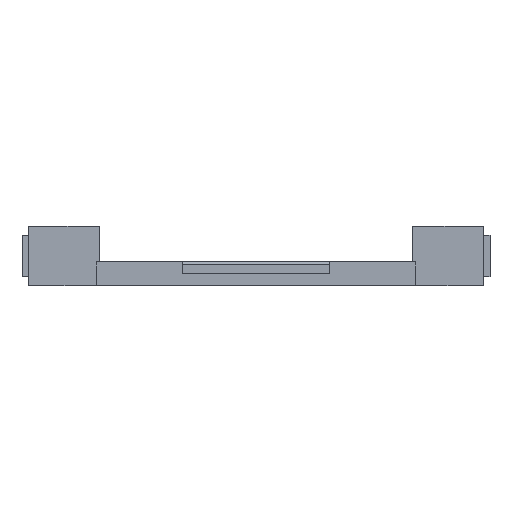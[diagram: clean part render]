
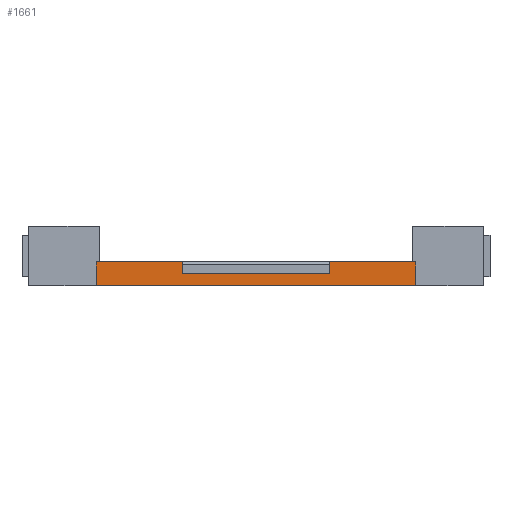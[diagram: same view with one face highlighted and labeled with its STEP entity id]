
A CAD part, front view. The second image highlights one B-rep face of the part: STEP entity #1661.
In plain terms, the highlighted planar face has unit normal (0, -1, 0).
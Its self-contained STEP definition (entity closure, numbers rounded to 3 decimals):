
#22 = VERTEX_POINT('',#23);
#23 = CARTESIAN_POINT('',(25.2,0.,8.));
#32 = PLANE('',#33);
#33 = AXIS2_PLACEMENT_3D('',#34,#35,#36);
#34 = CARTESIAN_POINT('',(25.2,0.,0.));
#35 = DIRECTION('',(1.,0.,0.));
#36 = DIRECTION('',(0.,0.,1.));
#44 = PLANE('',#45);
#45 = AXIS2_PLACEMENT_3D('',#46,#47,#48);
#46 = CARTESIAN_POINT('',(25.2,0.,8.));
#47 = DIRECTION('',(0.,0.,1.));
#48 = DIRECTION('',(1.,0.,0.));
#56 = EDGE_CURVE('',#57,#22,#59,.T.);
#57 = VERTEX_POINT('',#58);
#58 = CARTESIAN_POINT('',(25.2,0.,0.));
#59 = SURFACE_CURVE('',#60,(#64,#71),.PCURVE_S1.);
#60 = LINE('',#61,#62);
#61 = CARTESIAN_POINT('',(25.2,0.,0.));
#62 = VECTOR('',#63,1.);
#63 = DIRECTION('',(0.,0.,1.));
#64 = PCURVE('',#32,#65);
#65 = DEFINITIONAL_REPRESENTATION('',(#66),#70);
#66 = LINE('',#67,#68);
#67 = CARTESIAN_POINT('',(0.,0.));
#68 = VECTOR('',#69,1.);
#69 = DIRECTION('',(1.,0.));
#70 = ( GEOMETRIC_REPRESENTATION_CONTEXT(2) 
PARAMETRIC_REPRESENTATION_CONTEXT() REPRESENTATION_CONTEXT('2D SPACE',''
  ) );
#71 = PCURVE('',#72,#77);
#72 = PLANE('',#73);
#73 = AXIS2_PLACEMENT_3D('',#74,#75,#76);
#74 = CARTESIAN_POINT('',(25.2,0.,0.));
#75 = DIRECTION('',(0.,1.,0.));
#76 = DIRECTION('',(0.,0.,1.));
#77 = DEFINITIONAL_REPRESENTATION('',(#78),#82);
#78 = LINE('',#79,#80);
#79 = CARTESIAN_POINT('',(0.,0.));
#80 = VECTOR('',#81,1.);
#81 = DIRECTION('',(1.,0.));
#82 = ( GEOMETRIC_REPRESENTATION_CONTEXT(2) 
PARAMETRIC_REPRESENTATION_CONTEXT() REPRESENTATION_CONTEXT('2D SPACE',''
  ) );
#100 = PLANE('',#101);
#101 = AXIS2_PLACEMENT_3D('',#102,#103,#104);
#102 = CARTESIAN_POINT('',(25.2,0.,0.));
#103 = DIRECTION('',(0.,0.,1.));
#104 = DIRECTION('',(1.,0.,0.));
#141 = EDGE_CURVE('',#142,#144,#146,.T.);
#142 = VERTEX_POINT('',#143);
#143 = CARTESIAN_POINT('',(104.2,0.,8.));
#144 = VERTEX_POINT('',#145);
#145 = CARTESIAN_POINT('',(133.2,0.,8.));
#146 = SURFACE_CURVE('',#147,(#151,#158),.PCURVE_S1.);
#147 = LINE('',#148,#149);
#148 = CARTESIAN_POINT('',(25.2,0.,8.));
#149 = VECTOR('',#150,1.);
#150 = DIRECTION('',(1.,0.,0.));
#151 = PCURVE('',#44,#152);
#152 = DEFINITIONAL_REPRESENTATION('',(#153),#157);
#153 = LINE('',#154,#155);
#154 = CARTESIAN_POINT('',(0.,0.));
#155 = VECTOR('',#156,1.);
#156 = DIRECTION('',(1.,0.));
#157 = ( GEOMETRIC_REPRESENTATION_CONTEXT(2) 
PARAMETRIC_REPRESENTATION_CONTEXT() REPRESENTATION_CONTEXT('2D SPACE',''
  ) );
#158 = PCURVE('',#72,#159);
#159 = DEFINITIONAL_REPRESENTATION('',(#160),#164);
#160 = LINE('',#161,#162);
#161 = CARTESIAN_POINT('',(8.,0.));
#162 = VECTOR('',#163,1.);
#163 = DIRECTION('',(0.,1.));
#164 = ( GEOMETRIC_REPRESENTATION_CONTEXT(2) 
PARAMETRIC_REPRESENTATION_CONTEXT() REPRESENTATION_CONTEXT('2D SPACE',''
  ) );
#182 = PLANE('',#183);
#183 = AXIS2_PLACEMENT_3D('',#184,#185,#186);
#184 = CARTESIAN_POINT('',(133.2,0.,0.));
#185 = DIRECTION('',(1.,0.,0.));
#186 = DIRECTION('',(0.,0.,1.));
#644 = EDGE_CURVE('',#22,#645,#647,.T.);
#645 = VERTEX_POINT('',#646);
#646 = CARTESIAN_POINT('',(54.2,0.,8.));
#647 = SURFACE_CURVE('',#648,(#652,#659),.PCURVE_S1.);
#648 = LINE('',#649,#650);
#649 = CARTESIAN_POINT('',(25.2,0.,8.));
#650 = VECTOR('',#651,1.);
#651 = DIRECTION('',(1.,0.,0.));
#652 = PCURVE('',#44,#653);
#653 = DEFINITIONAL_REPRESENTATION('',(#654),#658);
#654 = LINE('',#655,#656);
#655 = CARTESIAN_POINT('',(0.,0.));
#656 = VECTOR('',#657,1.);
#657 = DIRECTION('',(1.,0.));
#658 = ( GEOMETRIC_REPRESENTATION_CONTEXT(2) 
PARAMETRIC_REPRESENTATION_CONTEXT() REPRESENTATION_CONTEXT('2D SPACE',''
  ) );
#659 = PCURVE('',#72,#660);
#660 = DEFINITIONAL_REPRESENTATION('',(#661),#665);
#661 = LINE('',#662,#663);
#662 = CARTESIAN_POINT('',(8.,0.));
#663 = VECTOR('',#664,1.);
#664 = DIRECTION('',(0.,1.));
#665 = ( GEOMETRIC_REPRESENTATION_CONTEXT(2) 
PARAMETRIC_REPRESENTATION_CONTEXT() REPRESENTATION_CONTEXT('2D SPACE',''
  ) );
#683 = PLANE('',#684);
#684 = AXIS2_PLACEMENT_3D('',#685,#686,#687);
#685 = CARTESIAN_POINT('',(54.2,-10.,4.));
#686 = DIRECTION('',(1.,0.,0.));
#687 = DIRECTION('',(0.,0.,1.));
#965 = PLANE('',#966);
#966 = AXIS2_PLACEMENT_3D('',#967,#968,#969);
#967 = CARTESIAN_POINT('',(104.2,-10.,4.));
#968 = DIRECTION('',(1.,0.,0.));
#969 = DIRECTION('',(0.,0.,1.));
#1086 = EDGE_CURVE('',#57,#1087,#1089,.T.);
#1087 = VERTEX_POINT('',#1088);
#1088 = CARTESIAN_POINT('',(133.2,0.,0.));
#1089 = SURFACE_CURVE('',#1090,(#1094,#1101),.PCURVE_S1.);
#1090 = LINE('',#1091,#1092);
#1091 = CARTESIAN_POINT('',(25.2,0.,0.));
#1092 = VECTOR('',#1093,1.);
#1093 = DIRECTION('',(1.,0.,0.));
#1094 = PCURVE('',#100,#1095);
#1095 = DEFINITIONAL_REPRESENTATION('',(#1096),#1100);
#1096 = LINE('',#1097,#1098);
#1097 = CARTESIAN_POINT('',(0.,0.));
#1098 = VECTOR('',#1099,1.);
#1099 = DIRECTION('',(1.,0.));
#1100 = ( GEOMETRIC_REPRESENTATION_CONTEXT(2) 
PARAMETRIC_REPRESENTATION_CONTEXT() REPRESENTATION_CONTEXT('2D SPACE',''
  ) );
#1101 = PCURVE('',#72,#1102);
#1102 = DEFINITIONAL_REPRESENTATION('',(#1103),#1107);
#1103 = LINE('',#1104,#1105);
#1104 = CARTESIAN_POINT('',(0.,0.));
#1105 = VECTOR('',#1106,1.);
#1106 = DIRECTION('',(0.,1.));
#1107 = ( GEOMETRIC_REPRESENTATION_CONTEXT(2) 
PARAMETRIC_REPRESENTATION_CONTEXT() REPRESENTATION_CONTEXT('2D SPACE',''
  ) );
#1661 = ADVANCED_FACE('',(#1662),#72,.F.);
#1662 = FACE_BOUND('',#1663,.F.);
#1663 = EDGE_LOOP('',(#1664,#1685,#1686,#1687,#1688,#1711,#1739,#1760));
#1664 = ORIENTED_EDGE('',*,*,#1665,.F.);
#1665 = EDGE_CURVE('',#1087,#144,#1666,.T.);
#1666 = SURFACE_CURVE('',#1667,(#1671,#1678),.PCURVE_S1.);
#1667 = LINE('',#1668,#1669);
#1668 = CARTESIAN_POINT('',(133.2,0.,0.));
#1669 = VECTOR('',#1670,1.);
#1670 = DIRECTION('',(0.,0.,1.));
#1671 = PCURVE('',#72,#1672);
#1672 = DEFINITIONAL_REPRESENTATION('',(#1673),#1677);
#1673 = LINE('',#1674,#1675);
#1674 = CARTESIAN_POINT('',(0.,108.));
#1675 = VECTOR('',#1676,1.);
#1676 = DIRECTION('',(1.,0.));
#1677 = ( GEOMETRIC_REPRESENTATION_CONTEXT(2) 
PARAMETRIC_REPRESENTATION_CONTEXT() REPRESENTATION_CONTEXT('2D SPACE',''
  ) );
#1678 = PCURVE('',#182,#1679);
#1679 = DEFINITIONAL_REPRESENTATION('',(#1680),#1684);
#1680 = LINE('',#1681,#1682);
#1681 = CARTESIAN_POINT('',(0.,0.));
#1682 = VECTOR('',#1683,1.);
#1683 = DIRECTION('',(1.,0.));
#1684 = ( GEOMETRIC_REPRESENTATION_CONTEXT(2) 
PARAMETRIC_REPRESENTATION_CONTEXT() REPRESENTATION_CONTEXT('2D SPACE',''
  ) );
#1685 = ORIENTED_EDGE('',*,*,#1086,.F.);
#1686 = ORIENTED_EDGE('',*,*,#56,.T.);
#1687 = ORIENTED_EDGE('',*,*,#644,.T.);
#1688 = ORIENTED_EDGE('',*,*,#1689,.T.);
#1689 = EDGE_CURVE('',#645,#1690,#1692,.T.);
#1690 = VERTEX_POINT('',#1691);
#1691 = CARTESIAN_POINT('',(54.2,0.,4.));
#1692 = SURFACE_CURVE('',#1693,(#1697,#1704),.PCURVE_S1.);
#1693 = LINE('',#1694,#1695);
#1694 = CARTESIAN_POINT('',(54.2,0.,2.));
#1695 = VECTOR('',#1696,1.);
#1696 = DIRECTION('',(0.,0.,-1.));
#1697 = PCURVE('',#72,#1698);
#1698 = DEFINITIONAL_REPRESENTATION('',(#1699),#1703);
#1699 = LINE('',#1700,#1701);
#1700 = CARTESIAN_POINT('',(2.,29.));
#1701 = VECTOR('',#1702,1.);
#1702 = DIRECTION('',(-1.,0.));
#1703 = ( GEOMETRIC_REPRESENTATION_CONTEXT(2) 
PARAMETRIC_REPRESENTATION_CONTEXT() REPRESENTATION_CONTEXT('2D SPACE',''
  ) );
#1704 = PCURVE('',#683,#1705);
#1705 = DEFINITIONAL_REPRESENTATION('',(#1706),#1710);
#1706 = LINE('',#1707,#1708);
#1707 = CARTESIAN_POINT('',(-2.,-10.));
#1708 = VECTOR('',#1709,1.);
#1709 = DIRECTION('',(-1.,0.));
#1710 = ( GEOMETRIC_REPRESENTATION_CONTEXT(2) 
PARAMETRIC_REPRESENTATION_CONTEXT() REPRESENTATION_CONTEXT('2D SPACE',''
  ) );
#1711 = ORIENTED_EDGE('',*,*,#1712,.T.);
#1712 = EDGE_CURVE('',#1690,#1713,#1715,.T.);
#1713 = VERTEX_POINT('',#1714);
#1714 = CARTESIAN_POINT('',(104.2,0.,4.));
#1715 = SURFACE_CURVE('',#1716,(#1720,#1727),.PCURVE_S1.);
#1716 = LINE('',#1717,#1718);
#1717 = CARTESIAN_POINT('',(39.7,0.,4.));
#1718 = VECTOR('',#1719,1.);
#1719 = DIRECTION('',(1.,0.,0.));
#1720 = PCURVE('',#72,#1721);
#1721 = DEFINITIONAL_REPRESENTATION('',(#1722),#1726);
#1722 = LINE('',#1723,#1724);
#1723 = CARTESIAN_POINT('',(4.,14.5));
#1724 = VECTOR('',#1725,1.);
#1725 = DIRECTION('',(0.,1.));
#1726 = ( GEOMETRIC_REPRESENTATION_CONTEXT(2) 
PARAMETRIC_REPRESENTATION_CONTEXT() REPRESENTATION_CONTEXT('2D SPACE',''
  ) );
#1727 = PCURVE('',#1728,#1733);
#1728 = PLANE('',#1729);
#1729 = AXIS2_PLACEMENT_3D('',#1730,#1731,#1732);
#1730 = CARTESIAN_POINT('',(54.2,-10.,4.));
#1731 = DIRECTION('',(0.,0.,1.));
#1732 = DIRECTION('',(1.,0.,0.));
#1733 = DEFINITIONAL_REPRESENTATION('',(#1734),#1738);
#1734 = LINE('',#1735,#1736);
#1735 = CARTESIAN_POINT('',(-14.5,10.));
#1736 = VECTOR('',#1737,1.);
#1737 = DIRECTION('',(1.,0.));
#1738 = ( GEOMETRIC_REPRESENTATION_CONTEXT(2) 
PARAMETRIC_REPRESENTATION_CONTEXT() REPRESENTATION_CONTEXT('2D SPACE',''
  ) );
#1739 = ORIENTED_EDGE('',*,*,#1740,.F.);
#1740 = EDGE_CURVE('',#142,#1713,#1741,.T.);
#1741 = SURFACE_CURVE('',#1742,(#1746,#1753),.PCURVE_S1.);
#1742 = LINE('',#1743,#1744);
#1743 = CARTESIAN_POINT('',(104.2,0.,2.));
#1744 = VECTOR('',#1745,1.);
#1745 = DIRECTION('',(0.,0.,-1.));
#1746 = PCURVE('',#72,#1747);
#1747 = DEFINITIONAL_REPRESENTATION('',(#1748),#1752);
#1748 = LINE('',#1749,#1750);
#1749 = CARTESIAN_POINT('',(2.,79.));
#1750 = VECTOR('',#1751,1.);
#1751 = DIRECTION('',(-1.,0.));
#1752 = ( GEOMETRIC_REPRESENTATION_CONTEXT(2) 
PARAMETRIC_REPRESENTATION_CONTEXT() REPRESENTATION_CONTEXT('2D SPACE',''
  ) );
#1753 = PCURVE('',#965,#1754);
#1754 = DEFINITIONAL_REPRESENTATION('',(#1755),#1759);
#1755 = LINE('',#1756,#1757);
#1756 = CARTESIAN_POINT('',(-2.,-10.));
#1757 = VECTOR('',#1758,1.);
#1758 = DIRECTION('',(-1.,0.));
#1759 = ( GEOMETRIC_REPRESENTATION_CONTEXT(2) 
PARAMETRIC_REPRESENTATION_CONTEXT() REPRESENTATION_CONTEXT('2D SPACE',''
  ) );
#1760 = ORIENTED_EDGE('',*,*,#141,.T.);
